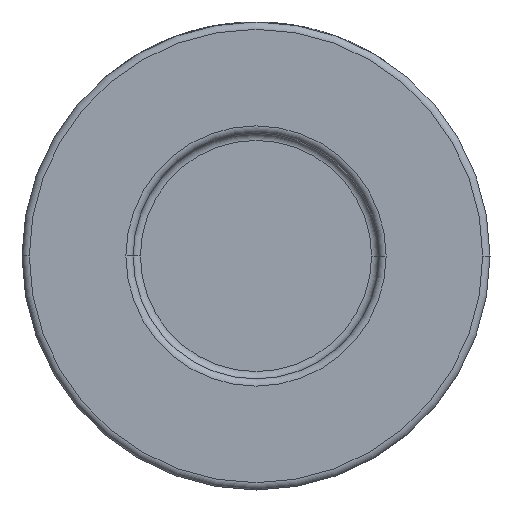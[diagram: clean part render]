
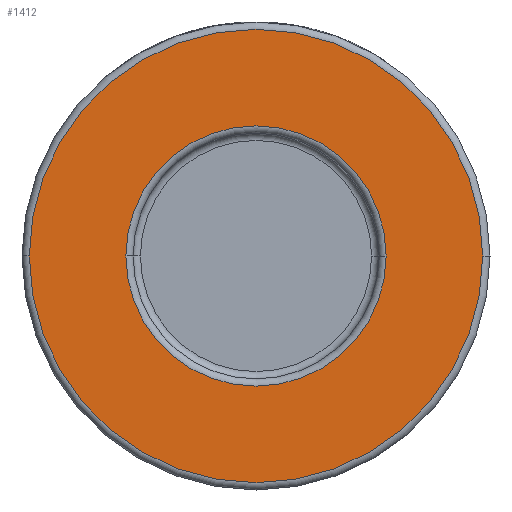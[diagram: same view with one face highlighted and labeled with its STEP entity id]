
A CAD part, front view. The second image highlights one B-rep face of the part: STEP entity #1412.
In plain terms, the highlighted planar face has unit normal (0, -1, 0).
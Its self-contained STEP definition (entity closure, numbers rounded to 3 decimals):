
#135 = CARTESIAN_POINT ( 'NONE',  ( 32., -21., 0. ) ) ;
#184 = FACE_OUTER_BOUND ( 'NONE', #403, .T. ) ;
#245 = AXIS2_PLACEMENT_3D ( 'NONE', #2073, #3456, #311 ) ;
#263 = EDGE_CURVE ( 'NONE', #3362, #4167, #2245, .T. ) ;
#311 = DIRECTION ( 'NONE',  ( 1., 0., 0. ) ) ;
#403 = EDGE_LOOP ( 'NONE', ( #3073, #1407 ) ) ;
#460 = AXIS2_PLACEMENT_3D ( 'NONE', #2028, #947, #1204 ) ;
#822 = PLANE ( 'NONE',  #3398 ) ;
#868 = DIRECTION ( 'NONE',  ( 1., 0., 0. ) ) ;
#947 = DIRECTION ( 'NONE',  ( 0., -1., 0. ) ) ;
#1204 = DIRECTION ( 'NONE',  ( 1., 0., 0. ) ) ;
#1214 = DIRECTION ( 'NONE',  ( 0., -1., 0. ) ) ;
#1407 = ORIENTED_EDGE ( 'NONE', *, *, #1769, .T. ) ;
#1412 = ADVANCED_FACE ( 'NONE', ( #1522, #184 ), #822, .T. ) ;
#1522 = FACE_BOUND ( 'NONE', #2099, .T. ) ;
#1529 = CARTESIAN_POINT ( 'NONE',  ( -31., -21., 0. ) ) ;
#1545 = CARTESIAN_POINT ( 'NONE',  ( -17.8, -21., 0. ) ) ;
#1562 = CARTESIAN_POINT ( 'NONE',  ( 0., -21., 0. ) ) ;
#1769 = EDGE_CURVE ( 'NONE', #4167, #3362, #2960, .T. ) ;
#1953 = ORIENTED_EDGE ( 'NONE', *, *, #2307, .T. ) ;
#2028 = CARTESIAN_POINT ( 'NONE',  ( 0., -21., 0. ) ) ;
#2049 = DIRECTION ( 'NONE',  ( 0., 1., 0. ) ) ;
#2073 = CARTESIAN_POINT ( 'NONE',  ( 0., -21., 0. ) ) ;
#2092 = CIRCLE ( 'NONE', #2169, 17.8 ) ;
#2099 = EDGE_LOOP ( 'NONE', ( #1953, #2624 ) ) ;
#2139 = CARTESIAN_POINT ( 'NONE',  ( 0., -21., 0. ) ) ;
#2158 = VERTEX_POINT ( 'NONE', #1545 ) ;
#2169 = AXIS2_PLACEMENT_3D ( 'NONE', #2139, #2049, #3433 ) ;
#2245 = CIRCLE ( 'NONE', #3259, 31. ) ;
#2307 = EDGE_CURVE ( 'NONE', #2949, #2158, #3986, .T. ) ;
#2414 = EDGE_CURVE ( 'NONE', #2158, #2949, #2092, .T. ) ;
#2563 = CARTESIAN_POINT ( 'NONE',  ( 31., -21., 0. ) ) ;
#2624 = ORIENTED_EDGE ( 'NONE', *, *, #2414, .T. ) ;
#2649 = DIRECTION ( 'NONE',  ( 1., 0., 0. ) ) ;
#2723 = CARTESIAN_POINT ( 'NONE',  ( 17.8, -21., 0. ) ) ;
#2949 = VERTEX_POINT ( 'NONE', #2723 ) ;
#2960 = CIRCLE ( 'NONE', #460, 31. ) ;
#2963 = DIRECTION ( 'NONE',  ( 0., -1., 0. ) ) ;
#3073 = ORIENTED_EDGE ( 'NONE', *, *, #263, .T. ) ;
#3259 = AXIS2_PLACEMENT_3D ( 'NONE', #1562, #2963, #2649 ) ;
#3362 = VERTEX_POINT ( 'NONE', #2563 ) ;
#3398 = AXIS2_PLACEMENT_3D ( 'NONE', #135, #1214, #868 ) ;
#3433 = DIRECTION ( 'NONE',  ( 1., 0., 0. ) ) ;
#3456 = DIRECTION ( 'NONE',  ( 0., 1., 0. ) ) ;
#3986 = CIRCLE ( 'NONE', #245, 17.8 ) ;
#4167 = VERTEX_POINT ( 'NONE', #1529 ) ;
